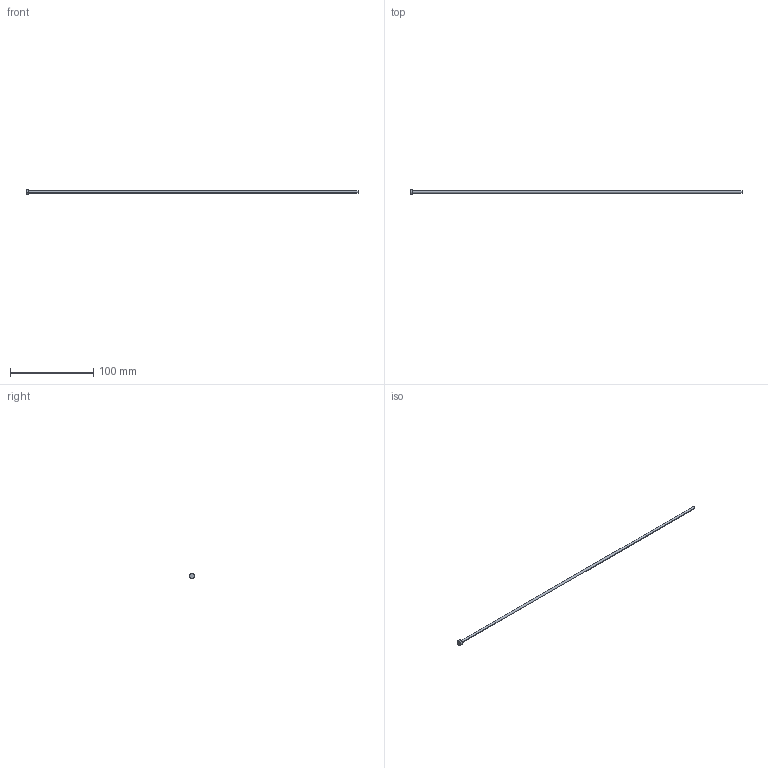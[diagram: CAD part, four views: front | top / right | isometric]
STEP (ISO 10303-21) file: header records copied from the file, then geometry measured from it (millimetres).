
FILE_DESCRIPTION (( 'STEP AP214' ), '1' );
FILE_NAME ('A-3x400.STEP', '2020-05-28T17:38:22', ( 'August' ), ( '' ), 'SwSTEP 2.0', 'SolidWorks 2018', '' );
FILE_SCHEMA (( 'AUTOMOTIVE_DESIGN' ));
Length unit declared in the file: millimetre
Products named in the file (1): A-3x400
Bounding box: 400 x 6 x 6 mm (x, y, z)
Volume: 2891.2 mm3; surface area: 3853.6 mm2
Topology: 1 solids, 1 shells, 9 faces, 16 edges, 10 vertices
Faces by surface type: cylinder 4, plane 3, torus 2
Entity records: 260 total; most frequent: DIRECTION 48, CARTESIAN_POINT 36, ORIENTED_EDGE 32, AXIS2_PLACEMENT_3D 22, EDGE_CURVE 16, CIRCLE 12, VERTEX_POINT 10, EDGE_LOOP 10
